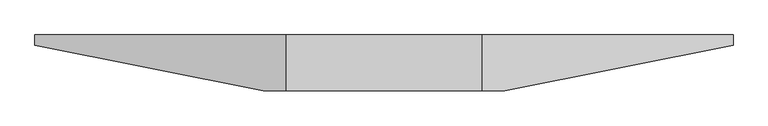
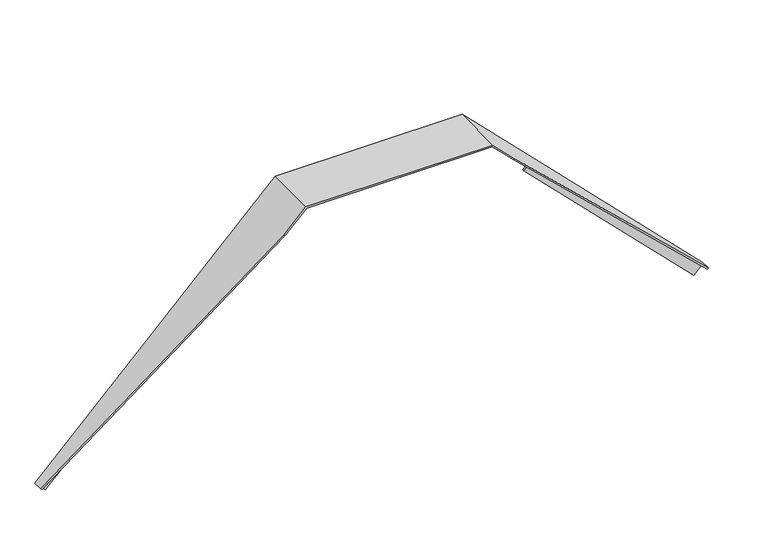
"""IFC4 building model written with IfcOpenShell, lengths in millimetres: proxy geometry, IMPRESS^TABLE 6_4 PC TOP PWR DRAWERS-CORNER SUPPORT BRACKET."""

from ifc_helpers import new_model, si_unit, origin, place, context, project, spatial, faceted_brep, source, transform, mapped, element, save


def generic_models_c5cf19e4(model_context):
    return source(origin(), model_context, "Body", "Brep", [
        faceted_brep([(0.0, 0.0, 0.0), (355.6, 0.0, 0.0), (355.6, 101.6, 0.0), (0.0, 101.6, 0.0), (354.4995008, 0.0, -2.65684), (1.1004992, 0.0, -2.65684), (1.1004992, 101.6, -2.65684), (354.4995008, 101.6, -2.65684), (487.6321101, 98.94316, -135.7894492), (471.5502674, 98.94316, -151.8712919), (794.8394878, 98.94316, -475.1605122), (810.9213304, 98.94316, -459.0786696), (812.8, 101.6, -457.2), (794.8394878, 101.6, -475.1605122), (471.5502674, 101.6, -151.8712919), (487.6321101, 101.6, -135.7894492), (-132.0321101, 101.6, -135.7894492), (-115.9502674, 101.6, -151.8712919), (-439.2394878, 101.6, -475.1605122), (-457.2, 101.6, -457.2), (-455.3213304, 98.94316, -459.0786696), (-439.2394878, 98.94316, -475.1605122), (-115.9502674, 98.94316, -151.8712919), (-132.0321101, 98.94316, -135.7894492), (-41.8640237, 0.0, -41.8640237), (-457.2, 82.55, -457.2), (-455.3213304, 82.55, -459.0786696), (-39.9853541, 0.0, -43.7426933), (395.5853541, 0.0, -43.7426933), (397.4640237, 0.0, -41.8640237), (812.8, 82.55, -457.2), (810.9213304, 82.55, -459.0786696)], [[[0, 1, 2, 3]], [[4, 5, 6, 7]], [[8, 9, 10, 11]], [[3, 2, 12, 13, 14, 15, 7, 6, 16, 17, 18, 19]], [[20, 21, 22, 23]], [[24, 25, 26, 27]], [[24, 27, 5, 4, 28, 29, 1, 0]], [[27, 26, 20, 23, 16, 6, 5]], [[30, 29, 28, 31]], [[29, 30, 12, 2, 1]], [[30, 31, 11, 10, 13, 12]], [[14, 13, 10, 9]], [[15, 14, 9, 8]], [[17, 16, 23, 22]], [[18, 17, 22, 21]], [[31, 28, 4, 7, 15, 8, 11]], [[25, 24, 0, 3, 19]], [[26, 25, 19, 18, 21, 20]]]),
    ])


if __name__ == "__main__":
    model = new_model("IFC4")
    model_context = context("Model", 3, world=origin())
    ifc_project = project(units=[si_unit("LENGTHUNIT", "METRE", prefix="MILLI")], contexts=[model_context])
    site = spatial("IfcSite", under=ifc_project)
    building = spatial("IfcBuilding", under=site)
    placement = place(None, origin())
    generic_models_shape = generic_models_c5cf19e4(model_context)
    element("IfcBuildingElementProxy", 1, Name="IMPRESS^TABLE 6_4 PC TOP PWR DRAWERS-CORNER SUPPORT BRACKET", ObjectType="IMPRESS^TABLE 6_4 PC TOP PWR DRAWERS-CORNER SUPPORT BRACKET", at=placement, inside=building, context=model_context, shape_type="MappedRepresentation", body=[
        mapped(generic_models_shape, transform((0.0, 0.0, 0.0), x_axis=(1.0, 0.0, 0.0), y_axis=(0.0, 1.0, 0.0), z_axis=(0.0, 0.0, 1.0))),
    ])
    save(model, "model.ifc")
